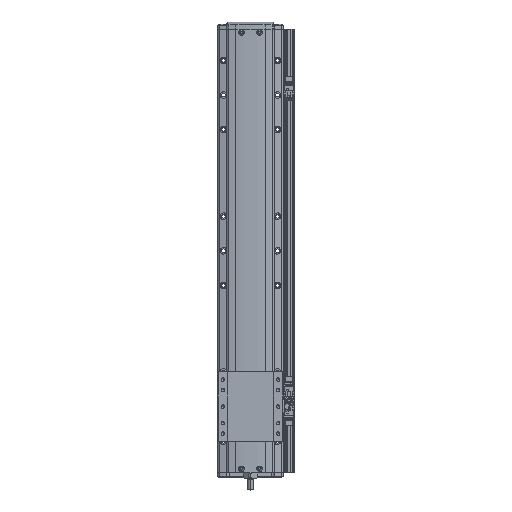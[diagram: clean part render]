
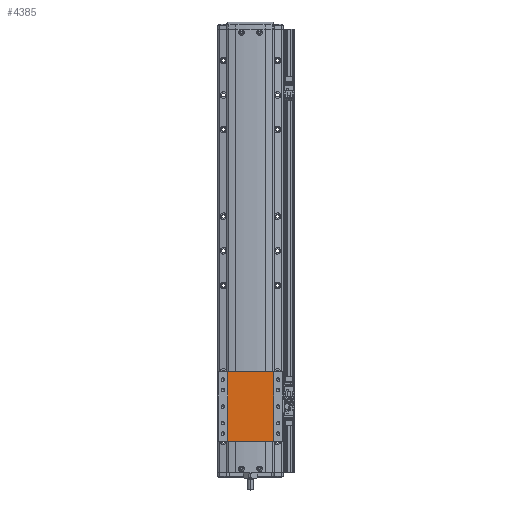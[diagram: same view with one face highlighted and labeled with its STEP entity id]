
A CAD part, top view. The second image highlights one B-rep face of the part: STEP entity #4385.
In plain terms, the highlighted planar face has unit normal (0, 0, 1).
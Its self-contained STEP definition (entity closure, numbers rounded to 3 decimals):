
#4385=ADVANCED_FACE('',(#10109),#10110,.F.);
#10109=FACE_OUTER_BOUND('',#18916,.T.);
#10110=PLANE('',#18917);
#18916=EDGE_LOOP('',(#31482,#31483,#31484,#31485));
#18917=AXIS2_PLACEMENT_3D('',#31486,#31487,#31488);
#31482=ORIENTED_EDGE('',*,*,#48029,.F.);
#31483=ORIENTED_EDGE('',*,*,#48027,.F.);
#31484=ORIENTED_EDGE('',*,*,#48030,.F.);
#31485=ORIENTED_EDGE('',*,*,#48031,.T.);
#31486=CARTESIAN_POINT('',(0.,-32.778,30.5));
#31487=DIRECTION('',(0.,0.,-1.0));
#31488=DIRECTION('',(-1.0,0.,0.));
#48027=EDGE_CURVE('',#58288,#58284,#58290,.T.);
#48029=EDGE_CURVE('',#58284,#58292,#58293,.T.);
#48030=EDGE_CURVE('',#58294,#58288,#58295,.T.);
#48031=EDGE_CURVE('',#58294,#58292,#58296,.T.);
#58284=VERTEX_POINT('',#73337);
#58288=VERTEX_POINT('',#73342);
#58290=LINE('',#73344,#73345);
#58292=VERTEX_POINT('',#73347);
#58293=LINE('',#73348,#73349);
#58294=VERTEX_POINT('',#73350);
#58295=LINE('',#73351,#73352);
#58296=LINE('',#73353,#73354);
#73337=CARTESIAN_POINT('',(-32.876,67.222,30.5));
#73342=CARTESIAN_POINT('',(-32.876,-32.778,30.5));
#73344=CARTESIAN_POINT('',(-32.876,-32.778,30.5));
#73345=VECTOR('',#87564,10.0);
#73347=CARTESIAN_POINT('',(32.876,67.222,30.5));
#73348=CARTESIAN_POINT('',(32.876,67.222,30.5));
#73349=VECTOR('',#87565,10.0);
#73350=CARTESIAN_POINT('',(32.876,-32.778,30.5));
#73351=CARTESIAN_POINT('',(32.876,-32.778,30.5));
#73352=VECTOR('',#87566,10.0);
#73353=CARTESIAN_POINT('',(32.876,-32.778,30.5));
#73354=VECTOR('',#87567,10.0);
#87564=DIRECTION('',(0.,1.0,0.));
#87565=DIRECTION('',(1.0,0.,0.));
#87566=DIRECTION('',(-1.0,0.,0.));
#87567=DIRECTION('',(0.,1.0,0.));
